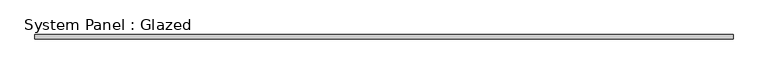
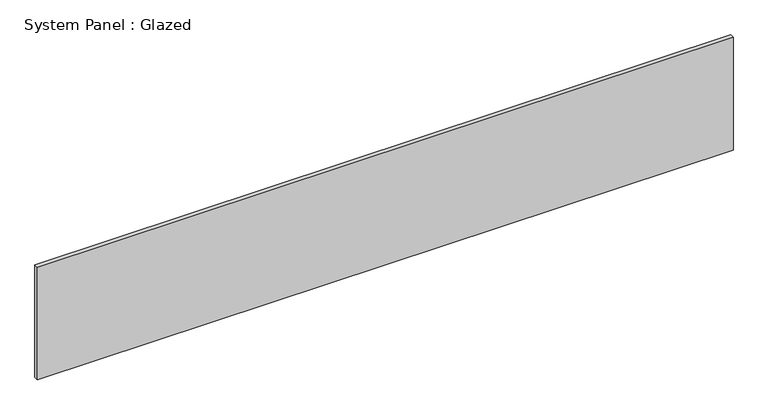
"""IFC4 building model written with IfcOpenShell, lengths in millimetres: plate geometry, System Panel : Glazed."""

from ifc_helpers import new_model, si_unit, origin, origin_with_axes, place, context, project, spatial, polyline, outline, extrude, source, transform, mapped, element, save


def system_panel_glazed_6f3688e4(model_context):
    return source(origin(), model_context, "Body", "SweptSolid", [
        extrude(outline(polyline([(1975.0, 24.5), (-1975.0, 24.5), (-1975.0, 49.5), (1975.0, 49.5), (1975.0, 24.5)])), origin_with_axes(), (0.0, 0.0, 1.0), 676.5075557),
    ])


if __name__ == "__main__":
    model = new_model("IFC4")
    model_context = context("Model", 3, world=origin())
    ifc_project = project(units=[si_unit("LENGTHUNIT", "METRE", prefix="MILLI")], contexts=[model_context])
    site = spatial("IfcSite", under=ifc_project)
    building = spatial("IfcBuilding", under=site)
    placement = place(None, origin())
    system_panel_glazed_shape = system_panel_glazed_6f3688e4(model_context)
    element("IfcPlate", 1, ObjectType="System Panel : Glazed", at=placement, inside=building, context=model_context, shape_type="MappedRepresentation", body=[
        mapped(system_panel_glazed_shape, transform((0.0, 0.0, 0.0), x_axis=(1.0, 0.0, 0.0), y_axis=(0.0, 1.0, 0.0), z_axis=(0.0, 0.0, 1.0))),
    ])
    save(model, "model.ifc")
